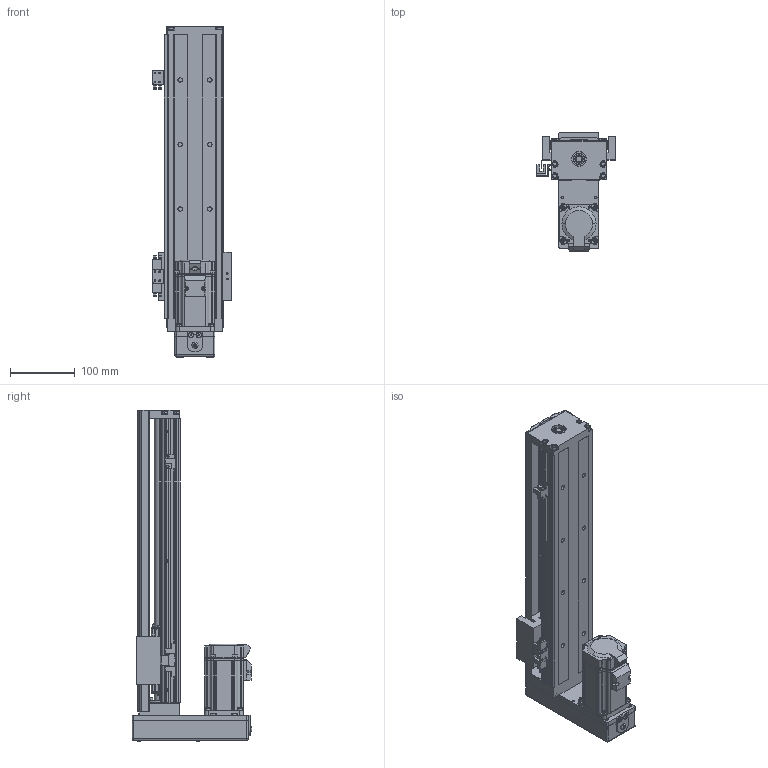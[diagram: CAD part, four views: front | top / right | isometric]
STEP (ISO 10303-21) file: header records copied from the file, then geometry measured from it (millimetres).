
FILE_DESCRIPTION (( 'STEP AP214' ), '1' );
FILE_NAME ('SFKK86-440A1-HM0C.STEP', '2022-05-05T13:08:53', ( '微软用户' ), ( '微软中国' ), 'SwSTEP 2.0', 'SolidWorks 2018', '' );
FILE_SCHEMA (( 'AUTOMOTIVE_DESIGN' ));
Length unit declared in the file: millimetre
Products named in the file (12): SFKK86-A1-C; SFKK86-LR 憤癹寢耋_440; SFKK86-H0_KKR86-ZT-P-440; hexagon socket countersunk head screws gb_GB_FASTENER_SCREWS_HSCHS M3X8-N; 带盖挡光片：KK-86-S2-D1; SFKK86-440A1-HM0C; hexagon socket countersunk head screws gb_GB_FASTENER_SCREWS_HSCHS M4X10-N; 开关固定座：KK-674S2-F; 极限轨道与开关固定座组合_440; SFKK86-CU_440; SX674嫖萇羲壽; SFKK86-H0-侂狟400W耜蚾
Assembly tree (18 placements, depth 3):
  SFKK86-440A1-HM0C
    SFKK86-H0_KKR86-ZT-P-440
    SFKK86-A1-C
    极限轨道与开关固定座组合_440
      SFKK86-LR 憤癹寢耋_440
      开关固定座：KK-674S2-F  x2
    SX674嫖萇羲壽  x3
    带盖挡光片：KK-86-S2-D1
    hexagon socket countersunk head screws gb_GB_FASTENER_SCREWS_HSCHS M3X8-N  x2
    SFKK86-CU_440
    hexagon socket countersunk head screws gb_GB_FASTENER_SCREWS_HSCHS M4X10-N  x4
    SFKK86-H0-侂狟400W耜蚾
Bounding box: 121.25 x 185.75 x 513.2 mm (x, y, z)
Volume: 1319444.2 mm3; surface area: 566990.1 mm2
Topology: 38 solids, 87 shells, 3645 faces, 9705 edges, 6214 vertices
Faces by surface type: plane 1625, cylinder 1461, cone 321, torus 105, bspline 100, sphere 33
Entity records: 136974 total; most frequent: CARTESIAN_POINT 29408, DIRECTION 18273, ORIENTED_EDGE 17502, EDGE_CURVE 9034, AXIS2_PLACEMENT_3D 6574, VERTEX_POINT 5888, LINE 5125, VECTOR 5125
